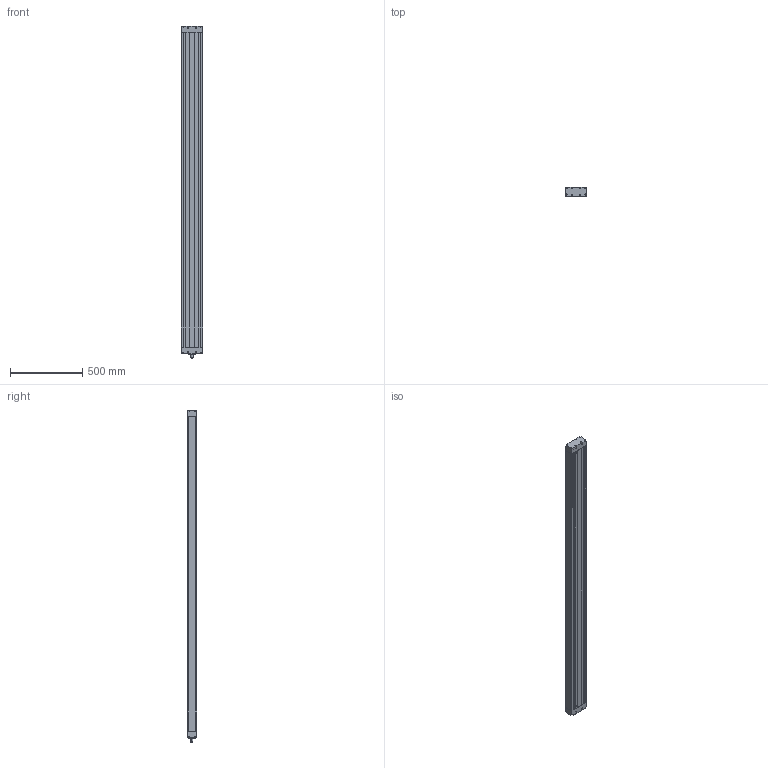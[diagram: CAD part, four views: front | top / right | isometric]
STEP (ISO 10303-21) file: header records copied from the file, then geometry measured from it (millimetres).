
FILE_DESCRIPTION (( 'STEP AP203' ), '1' );
FILE_NAME ('MSY150B-2000-LL2020-P7.STEP', '2013-11-02T03:57:24', ( '微软用户' ), ( '微软中国' ), 'SwSTEP 2.0', 'SolidWorks 2010', '' );
FILE_SCHEMA (( 'CONFIG_CONTROL_DESIGN' ));
Length unit declared in the file: millimetre
Products named in the file (1): MSY150B-2000-LL2020-P7
Bounding box: 150 x 67 x 2301 mm (x, y, z)
Volume: 17445570.5 mm3; surface area: 2132782.7 mm2
Topology: 1 solids, 1 shells, 309 faces, 837 edges, 538 vertices
Faces by surface type: plane 236, cylinder 61, cone 12
Entity records: 9622 total; most frequent: CARTESIAN_POINT 1677, ORIENTED_EDGE 1658, DIRECTION 1575, EDGE_CURVE 829, VECTOR 703, LINE 703, VERTEX_POINT 538, AXIS2_PLACEMENT_3D 436
